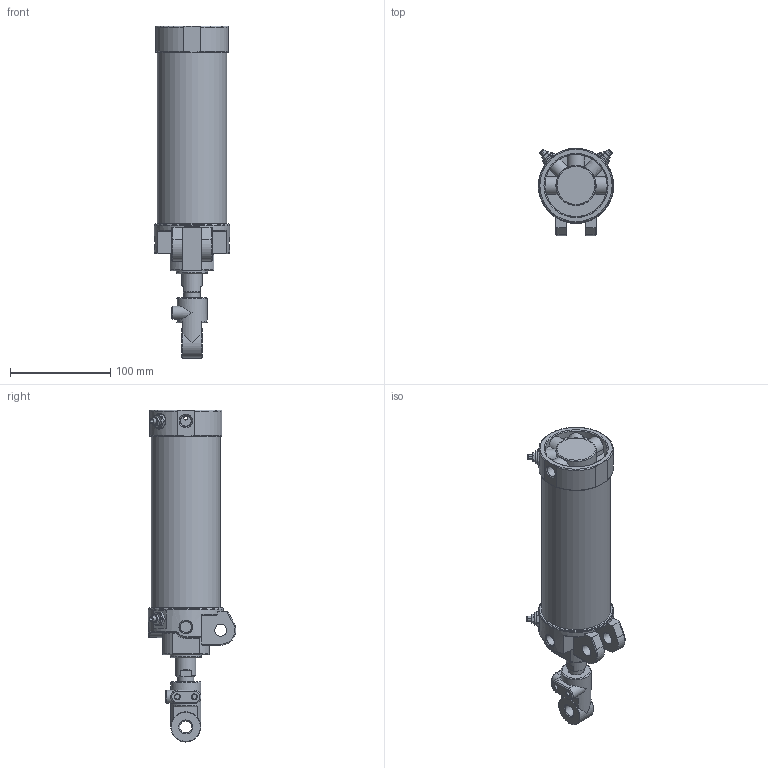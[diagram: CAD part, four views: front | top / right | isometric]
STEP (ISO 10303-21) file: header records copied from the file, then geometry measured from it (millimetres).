
FILE_DESCRIPTION((''),'2;1');
FILE_NAME('I:\3D電子目錄\氣缸\DCK\DCK\DCK-1B-63x125-I.stp','2008-02-26T15:27:53',('Administrator'),(''),'Autodesk Inventor 11','Autodesk Inventor 11','');
FILE_SCHEMA(('AUTOMOTIVE_DESIGN { 1 0 10303 214 1 1 1 1 }'));
Length unit declared in the file: millimetre
Products named in the file (6): DCK-1B-63-I; 緩衝針; 緩衝針-1; 緩衝針-201; 緩衝針-3
Assembly tree (8 placements, depth 3):
  DCK-1B-63-I
    DCK-1B-63-I
    緩衝針  x4
      緩衝針-1
      緩衝針-201
      緩衝針-3
Bounding box: 75 x 87.29 x 331 mm (x, y, z)
Volume: 382235.1 mm3; surface area: 154171.6 mm2
Topology: 17 solids, 17 shells, 639 faces, 1407 edges, 875 vertices
Faces by surface type: plane 233, cylinder 179, cone 139, torus 49, bspline 39
Full cylindrical faces by diameter (mm): 2 x1, 3 x2, 3.8 x2, 4 x6, 4.6 x4, 5 x8, 5.1 x4, 5.2 x12, 5.5 x4, 7 x1, 7.25 x1, 7.9 x4, 8 x2, 11.3 x3, 12 x3, 12.8 x4, 16 x3, 20 x1, 21 x1, 22 x2, 23 x1, 24.7 x1, 26 x1, 27 x1, 28 x1, 29 x1, 30 x2, 31 x1, 33 x1, 62 x1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
Entity records: 13902 total; most frequent: CARTESIAN_POINT 5736, DIRECTION 1661, ORIENTED_EDGE 1492, EDGE_CURVE 746, AXIS2_PLACEMENT_3D 726, EDGE_LOOP 584, VERTEX_POINT 538, FACE_OUTER_BOUND 390
